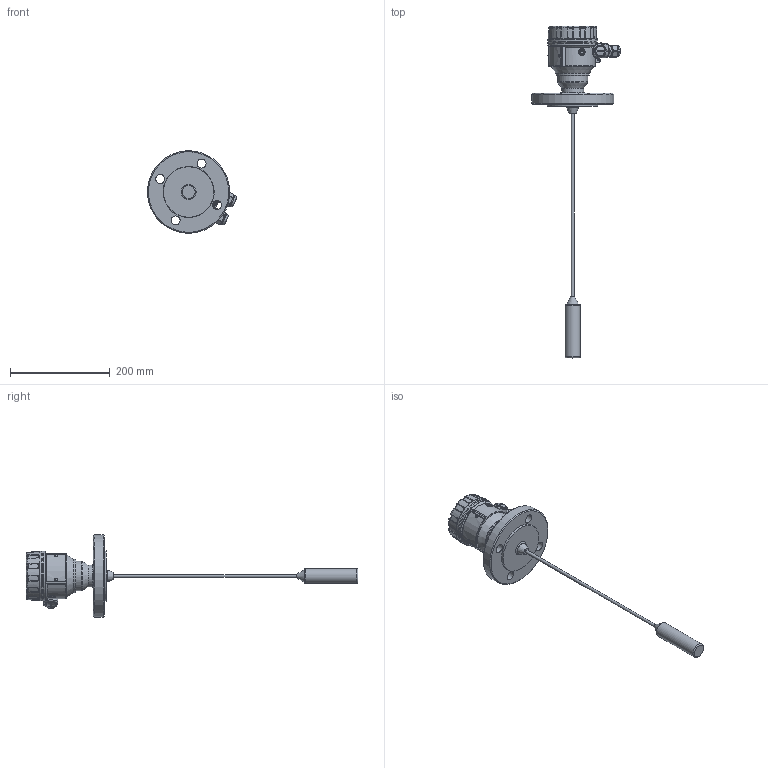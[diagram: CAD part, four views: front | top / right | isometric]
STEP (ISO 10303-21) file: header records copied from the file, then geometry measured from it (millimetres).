
FILE_DESCRIPTION(/* description */ (''),/* implementation_level */ '2;1');
FILE_NAME(/* name */ 'I:\Raj\3D\készülék rajzok\Összeállított készülékek\HT\HBM_7.stp',/* time_stamp */ '2022-08-24T14:49:52+02:00',/* author */ ('zcserhati'),/* organization */ (''),/* preprocessor_version */ 'ST-DEVELOPER v15.6',/* originating_system */ 'Autodesk Inventor 2015',/* authorisation */ '');
FILE_SCHEMA (('AUTOMOTIVE_DESIGN { 1 0 10303 214 3 1 1 }'));
Products named in the file (24): RKH_1_1.0001; ZARO; SB_külső; U_Alát; DIN 128 - A4; DIN 7985 (Z) - M4x8-Z; Tlem_egy; adattabla; Szegecs; SZERELTHAZ; Alu_alacsony_uveg; Hegesztett_karima_Welds; DN50_PN40; Menetes_agy; Hegesztett_karima; Munkaléc; Kotél; Suly; DN50_szonda; Tomsz; Alatet; Gumidugo; Tomszel_sz; HBM_7
Bounding box: 178.1 x 665 x 164.48 mm (x, y, z)
Volume: 827850.1 mm3; surface area: 232573.2 mm2
Topology: 26 solids, 26 shells, 1200 faces, 2900 edges, 1760 vertices
Faces by surface type: plane 337, bspline 330, cylinder 320, torus 82, cone 75, sphere 56
Full cylindrical faces by diameter (mm): 3 x6, 3.2 x2, 3.242 x1, 3.4 x2, 3.5 x5, 3.65 x1, 3.9 x1, 4 x1, 4.1 x1, 4.3 x1, 5.9 x1, 6 x3, 8 x2, 10 x2, 11.6 x1, 12.5 x4, 14 x2, 17 x3, 18 x4, 18.15 x7, 18.3 x12, 20 x10, 23.5 x2, 25 x2, 26 x1, 27.5 x2, 30 x2, 32.5 x1, 33.2 x2, 35.6 x1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
Entity records: 47554 total; most frequent: CARTESIAN_POINT 23534, ORIENTED_EDGE 4922, DIRECTION 4353, EDGE_CURVE 2459, AXIS2_PLACEMENT_3D 1841, VERTEX_POINT 1574, EDGE_LOOP 1327, FACE_OUTER_BOUND 1105
